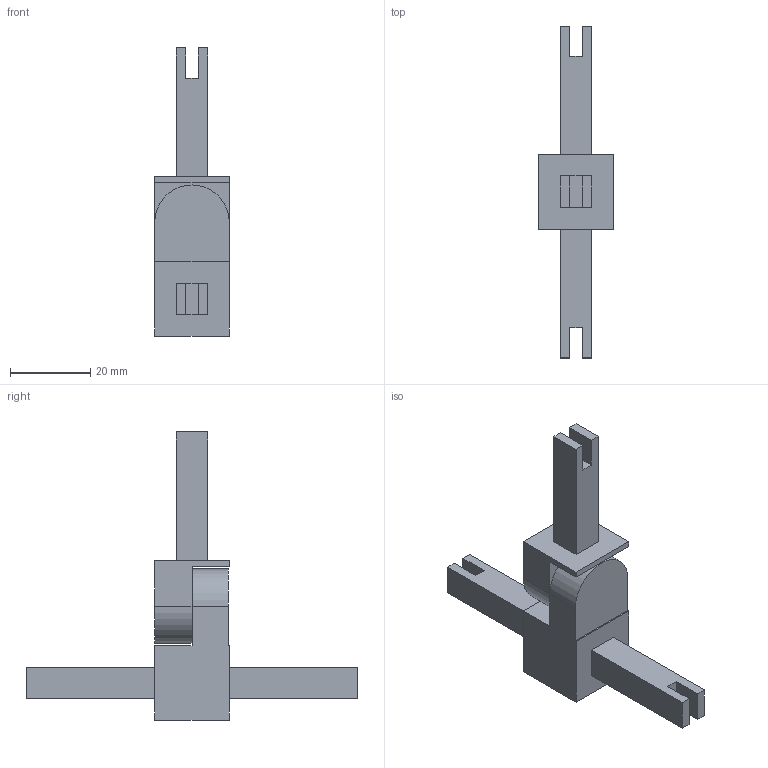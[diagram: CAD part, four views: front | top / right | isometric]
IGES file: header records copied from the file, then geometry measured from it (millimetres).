
Start section: Data from Parasolid IGES Translator 20.0.26, Copyright(c) 2006 Siemens P LM Software. All Rights Reserved.
Global section: file name: 9303950.igs; native system: By Siemens PLM Incorporated; preprocessor: XPlus GENERIC/IGES 20.0.26; author: Noname; organization: Noname; date: 20210824.170725; units: millimetre
Bounding box: 18.5 x 82.5 x 71.6 mm (x, y, z)
Surface area: 8095.4 mm2 (no closed solid volume)
Topology: 0 solids, 0 shells, 54 faces, 258 edges, 251 vertices
Faces by surface type: extrusion 47, revolution 7
